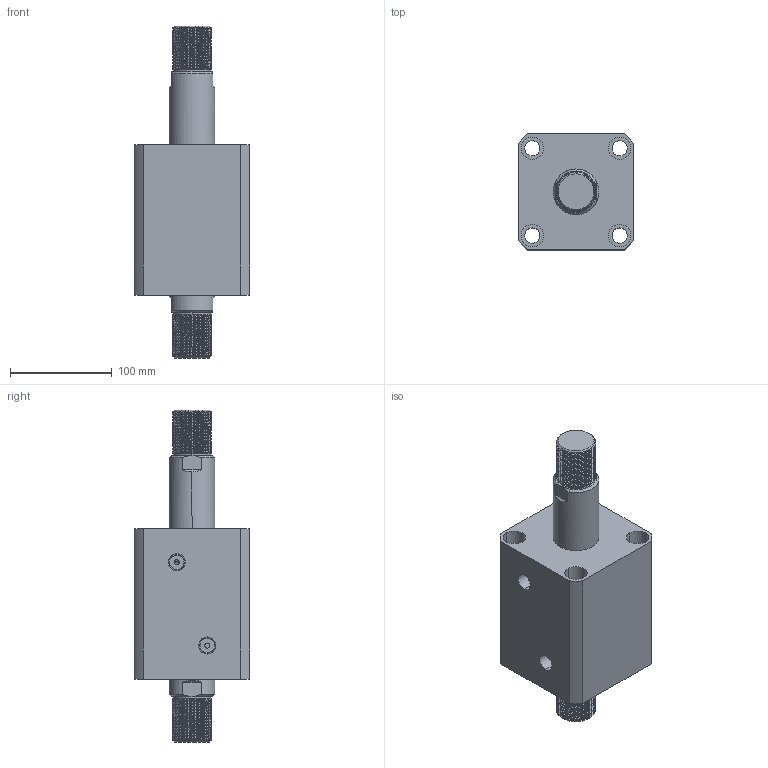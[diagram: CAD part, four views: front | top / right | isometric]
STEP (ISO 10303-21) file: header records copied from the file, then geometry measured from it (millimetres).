
FILE_DESCRIPTION (( 'STEP AP214' ), '1' );
FILE_NAME ('chtb-sw80x55w_asm.STEP', '2018-05-28T01:52:19', ( 'Windows' ), ( 'Microsoft' ), 'SwSTEP 2.0', 'SolidWorks 2015', '' );
FILE_SCHEMA (( 'AUTOMOTIVE_DESIGN' ));
Length unit declared in the file: millimetre
Products named in the file (4): CHTB-SW80X55WHSG; CHTB-SW80X55NBT; CHTB-SD80QG; chtb-sw80x55w_asm
Assembly tree (3 placements, depth 2):
  chtb-sw80x55w_asm
    CHTB-SD80QG
    CHTB-SW80X55NBT
    CHTB-SW80X55WHSG
Bounding box: 114 x 114 x 327 mm (x, y, z)
Volume: 1803049 mm3; surface area: 245690.4 mm2
Topology: 3 solids, 3 shells, 330 faces, 908 edges, 607 vertices
Faces by surface type: cylinder 221, plane 48, cone 25, bspline 18, torus 18
Entity records: 25864 total; most frequent: CARTESIAN_POINT 18238, ORIENTED_EDGE 1808, DIRECTION 1338, EDGE_CURVE 904, VERTEX_POINT 607, AXIS2_PLACEMENT_3D 532, EDGE_LOOP 373, ADVANCED_FACE 330
